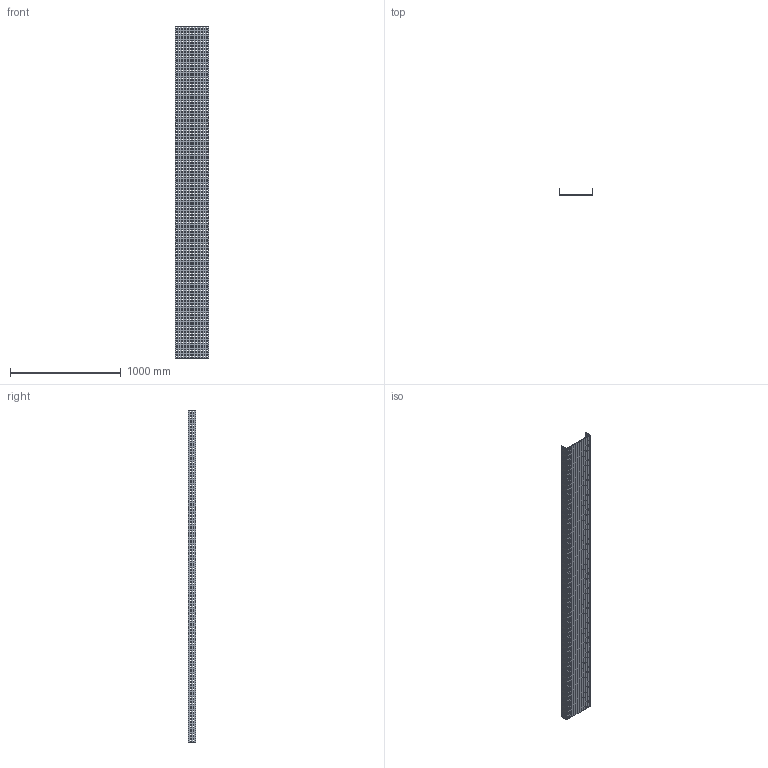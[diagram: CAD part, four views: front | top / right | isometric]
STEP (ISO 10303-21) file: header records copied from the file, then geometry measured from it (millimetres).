
FILE_DESCRIPTION (( 'STEP AP214' ), '1' );
FILE_NAME ('01B3H300.step', '2025-02-21T10:15:01', ( '' ), ( '' ), 'SwSTEP 2.0', 'SolidWorks 2023', '' );
FILE_SCHEMA (( 'AUTOMOTIVE_DESIGN' ));
Products named in the file (1): 01B3H300
Bounding box: 304 x 65.5 x 3000 mm (x, y, z)
Volume: 3788400 mm3; surface area: 2446844 mm2
Topology: 1 solids, 1 shells, 4618 faces, 13848 edges, 9232 vertices
Faces by surface type: plane 4618
Entity records: 156983 total; most frequent: CARTESIAN_POINT 27699, ORIENTED_EDGE 27696, DIRECTION 23086, LINE 13848, VECTOR 13848, EDGE_CURVE 13848, VERTEX_POINT 9232, EDGE_LOOP 6922
